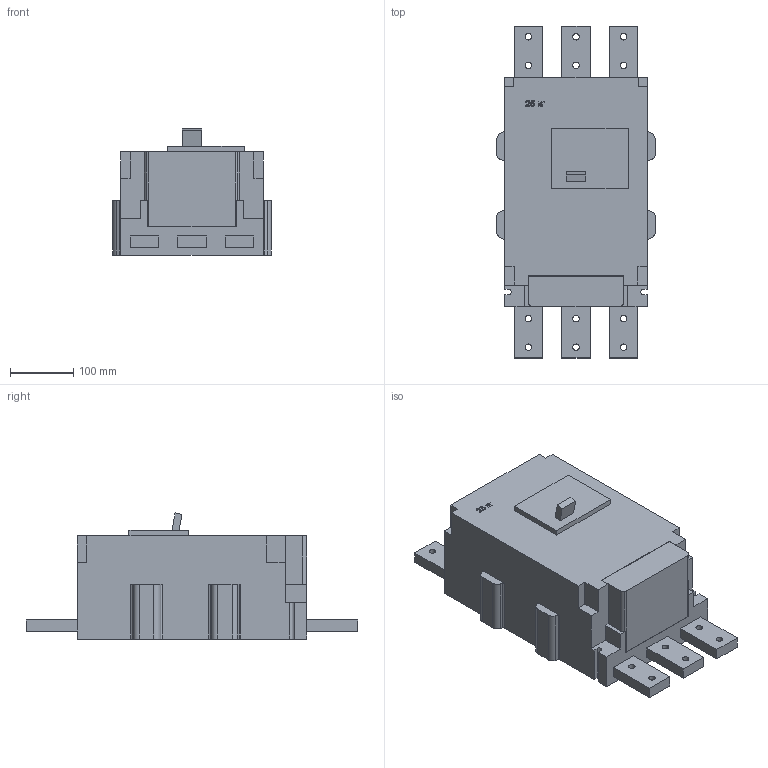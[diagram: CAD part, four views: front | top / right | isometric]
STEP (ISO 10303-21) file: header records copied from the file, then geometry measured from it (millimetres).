
FILE_DESCRIPTION (( 'STEP AP214' ), '1' );
FILE_NAME ('臍53(55)-41.STEP', '2023-02-13T08:14:15', ( 'user' ), ( '' ), 'SwSTEP 2.0', 'SolidWorks 2018', '' );
FILE_SCHEMA (( 'AUTOMOTIVE_DESIGN' ));
Length unit declared in the file: millimetre
Products named in the file (1): 臍53(55)-41
Bounding box: 250 x 523 x 198.64 mm (x, y, z)
Volume: 13549301 mm3; surface area: 514265 mm2
Topology: 5 solids, 5 shells, 164 faces, 473 edges, 333 vertices
Faces by surface type: plane 114, cylinder 46, bspline 4
Entity records: 5909 total; most frequent: CARTESIAN_POINT 1381, ORIENTED_EDGE 946, DIRECTION 852, EDGE_CURVE 473, LINE 346, VECTOR 346, VERTEX_POINT 333, AXIS2_PLACEMENT_3D 253
